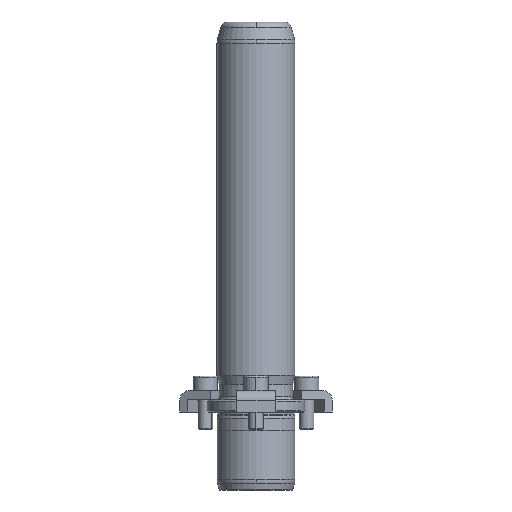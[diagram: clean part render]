
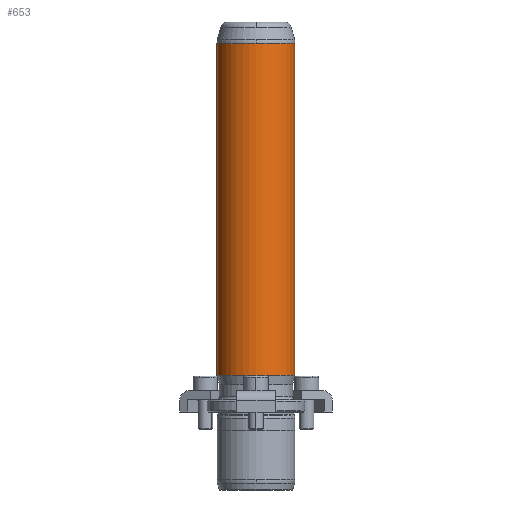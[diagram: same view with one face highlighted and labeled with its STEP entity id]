
A CAD part, front view. The second image highlights one B-rep face of the part: STEP entity #653.
In plain terms, the highlighted cylindrical face has radius 16 mm (diameter 32 mm), a partial arc.
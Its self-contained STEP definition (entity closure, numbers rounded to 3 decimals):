
#566=CARTESIAN_POINT('',(0.0,-16.,151.342));
#567=VERTEX_POINT('',#566);
#594=CARTESIAN_POINT('',(-16.0,0.,151.342));
#595=VERTEX_POINT('',#594);
#603=CARTESIAN_POINT('',(0.0,0.,151.342));
#604=DIRECTION('',(0.0,0.0,1.0));
#605=DIRECTION('',(1.0,0.0,0.0));
#606=AXIS2_PLACEMENT_3D('',#603,#604,#605);
#607=CIRCLE('',#606,16.0);
#608=EDGE_CURVE('',#595,#567,#607,.T.);
#613=CARTESIAN_POINT('',(0.0,0.,83.171));
#614=DIRECTION('',(0.0,0.,1.0));
#615=DIRECTION('',(1.0,0.0,0.0));
#616=AXIS2_PLACEMENT_3D('',#613,#614,#615);
#617=CYLINDRICAL_SURFACE('',#616,16.0);
#618=CARTESIAN_POINT('',(16.0,0.,151.342));
#619=VERTEX_POINT('',#618);
#620=CARTESIAN_POINT('',(16.0,0.,15.0));
#621=VERTEX_POINT('',#620);
#622=CARTESIAN_POINT('',(16.0,0.,151.342));
#623=DIRECTION('',(0.0,0.0,-1.0));
#624=VECTOR('',#623,136.342);
#625=LINE('',#622,#624);
#626=EDGE_CURVE('',#619,#621,#625,.T.);
#627=ORIENTED_EDGE('',*,*,#626,.F.);
#628=CARTESIAN_POINT('',(0.0,0.,151.342));
#629=DIRECTION('',(0.0,0.0,1.0));
#630=DIRECTION('',(1.0,0.0,0.0));
#631=AXIS2_PLACEMENT_3D('',#628,#629,#630);
#632=CIRCLE('',#631,16.0);
#633=EDGE_CURVE('',#567,#619,#632,.T.);
#634=ORIENTED_EDGE('',*,*,#633,.F.);
#635=ORIENTED_EDGE('',*,*,#608,.F.);
#636=CARTESIAN_POINT('',(-16.0,0.,15.0));
#637=VERTEX_POINT('',#636);
#638=CARTESIAN_POINT('',(-16.0,0.,151.342));
#639=DIRECTION('',(0.0,0.0,-1.0));
#640=VECTOR('',#639,136.342);
#641=LINE('',#638,#640);
#642=EDGE_CURVE('',#595,#637,#641,.T.);
#643=ORIENTED_EDGE('',*,*,#642,.T.);
#644=CARTESIAN_POINT('',(0.0,0.,15.0));
#645=DIRECTION('',(0.0,0.0,1.0));
#646=DIRECTION('',(1.0,0.0,0.0));
#647=AXIS2_PLACEMENT_3D('',#644,#645,#646);
#648=CIRCLE('',#647,16.0);
#649=EDGE_CURVE('',#637,#621,#648,.T.);
#650=ORIENTED_EDGE('',*,*,#649,.T.);
#651=EDGE_LOOP('',(#627,#634,#635,#643,#650));
#652=FACE_OUTER_BOUND('',#651,.T.);
#653=ADVANCED_FACE('',(#652),#617,.T.);
